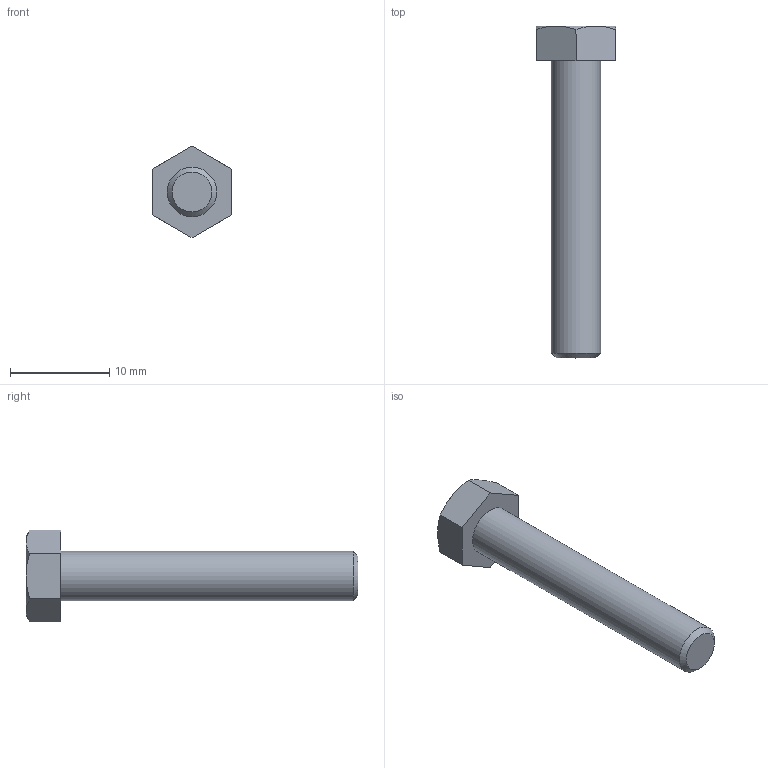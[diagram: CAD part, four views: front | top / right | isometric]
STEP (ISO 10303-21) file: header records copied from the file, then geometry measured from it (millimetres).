
FILE_DESCRIPTION(/* description */ (''),/* implementation_level */ '2;1');
FILE_NAME(/* name */ 'C:\Users\unitec\Documents\Inventor\各種小物\JIS\JIS B 1180 六角ボルト 等級C\hbc5\M5x30.stp',/* time_stamp */ '2015-02-13T14:49:06+09:00',/* author */ ('unitec'),/* organization */ (''),/* preprocessor_version */ 'ST-DEVELOPER v15.2',/* originating_system */ 'Autodesk Inventor 2014',/* authorisation */ '');
FILE_SCHEMA (('AUTOMOTIVE_DESIGN { 1 0 10303 214 3 1 1 }'));
Length unit declared in the file: millimetre
Products named in the file (1): M5x30
Bounding box: 8 x 33.5 x 9.24 mm (x, y, z)
Volume: 780.7 mm3; surface area: 671.7 mm2
Topology: 1 solids, 1 shells, 17 faces, 35 edges, 21 vertices
Faces by surface type: plane 9, cone 7, cylinder 1
Full cylindrical faces by diameter (mm): 5 x1
Entity records: 441 total; most frequent: CARTESIAN_POINT 96, ORIENTED_EDGE 66, DIRECTION 66, EDGE_CURVE 33, AXIS2_PLACEMENT_3D 27, VERTEX_POINT 21, EDGE_LOOP 20, ADVANCED_FACE 17
